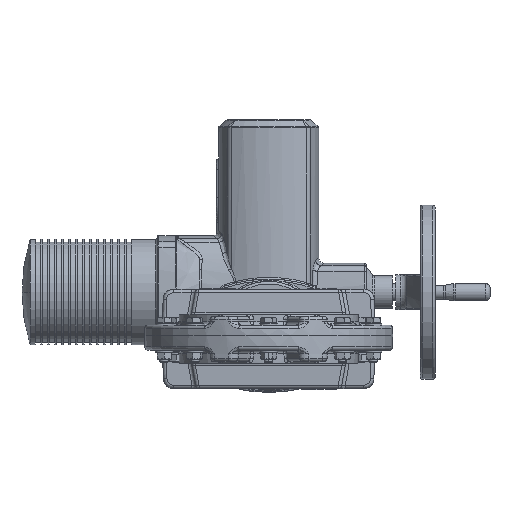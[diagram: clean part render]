
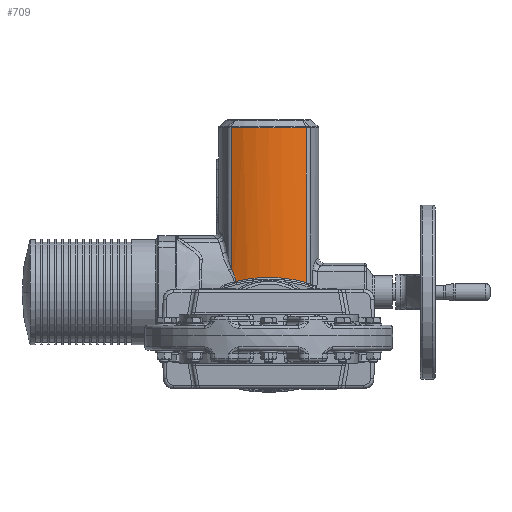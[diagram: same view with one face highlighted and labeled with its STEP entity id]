
A CAD part, front view. The second image highlights one B-rep face of the part: STEP entity #709.
In plain terms, the highlighted cylindrical face has radius 100 mm (diameter 200 mm), a partial arc.
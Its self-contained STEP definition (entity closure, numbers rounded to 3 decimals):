
#709 = ADVANCED_FACE ( 'NONE', ( #124707 ), #47114, .T. ) ;
#2525 = CARTESIAN_POINT ( 'NONE',  ( 6.69, 525.164, 66.645 ) ) ;
#4971 = ORIENTED_EDGE ( 'NONE', *, *, #5374, .T. ) ;
#5374 = EDGE_CURVE ( 'NONE', #31009, #96477, #47219, .T. ) ;
#8836 = AXIS2_PLACEMENT_3D ( 'NONE', #107347, #72303, #60948 ) ;
#9559 = VECTOR ( 'NONE', #24443, 1000. ) ;
#12243 = CARTESIAN_POINT ( 'NONE',  ( -38.812, 532.833, 67.167 ) ) ;
#13857 = CARTESIAN_POINT ( 'NONE',  ( -30.843, 529.814, 63.702 ) ) ;
#14353 = CARTESIAN_POINT ( 'NONE',  ( 15.279, 526.159, 66.008 ) ) ;
#19783 = VECTOR ( 'NONE', #110935, 1000. ) ;
#24078 = CARTESIAN_POINT ( 'NONE',  ( -37.247, 532.196, 62.232 ) ) ;
#24443 = DIRECTION ( 'NONE',  ( 0., 0., -1. ) ) ;
#25709 = CARTESIAN_POINT ( 'NONE',  ( -20.937, 527.156, 65.374 ) ) ;
#26221 = CARTESIAN_POINT ( 'NONE',  ( 19.552, 526.926, 65.52 ) ) ;
#28781 = CARTESIAN_POINT ( 'NONE',  ( -43.041, 534.737, 238.426 ) ) ;
#31009 = VERTEX_POINT ( 'NONE', #66197 ) ;
#34311 = ORIENTED_EDGE ( 'NONE', *, *, #40391, .F. ) ;
#37028 = CARTESIAN_POINT ( 'NONE',  ( -37.247, 532.196, 62.232 ) ) ;
#37524 = CARTESIAN_POINT ( 'NONE',  ( -14.131, 525.988, 66.117 ) ) ;
#38037 = CARTESIAN_POINT ( 'NONE',  ( 22.103, 527.47, 65.176 ) ) ;
#39289 = EDGE_CURVE ( 'NONE', #125797, #59563, #68224, .T. ) ;
#40044 = AXIS2_PLACEMENT_3D ( 'NONE', #57318, #139742, #69160 ) ;
#40391 = EDGE_CURVE ( 'NONE', #125797, #82460, #51053, .T. ) ;
#41399 = EDGE_CURVE ( 'NONE', #96477, #82460, #85123, .T. ) ;
#47114 = CYLINDRICAL_SURFACE ( 'NONE', #8836, 100. ) ;
#47219 = B_SPLINE_CURVE_WITH_KNOTS ( 'NONE', 3,
 ( #82831, #59125, #129694, #12243, #94639, #24078 ),
 .UNSPECIFIED., .F., .F.,
 ( 4, 2, 4 ),
 ( 0., 0.008, 0.016 ),
 .UNSPECIFIED. ) ;
#48322 = CARTESIAN_POINT ( 'NONE',  ( -34.072, 530.921, 63.013 ) ) ;
#49333 = CARTESIAN_POINT ( 'NONE',  ( -10.673, 525.567, 66.386 ) ) ;
#49849 = CARTESIAN_POINT ( 'NONE',  ( 27.143, 528.692, 64.404 ) ) ;
#50710 = CARTESIAN_POINT ( 'NONE',  ( -37.247, 532.196, 62.232 ) ) ;
#51053 = LINE ( 'NONE', #75382, #19783 ) ;
#51912 = LINE ( 'NONE', #107395, #9559 ) ;
#53257 = CARTESIAN_POINT ( 'NONE',  ( 43.041, 534.737, 238.426 ) ) ;
#53669 = CARTESIAN_POINT ( 'NONE',  ( 43.041, 534.737, 60.688 ) ) ;
#57318 = CARTESIAN_POINT ( 'NONE',  ( 0., 625., 238.426 ) ) ;
#59125 = CARTESIAN_POINT ( 'NONE',  ( -41.868, 534.177, 74.227 ) ) ;
#59563 = VERTEX_POINT ( 'NONE', #28781 ) ;
#60948 = DIRECTION ( 'NONE',  ( -1., 0., 0. ) ) ;
#60998 = ORIENTED_EDGE ( 'NONE', *, *, #112499, .T. ) ;
#61251 = CARTESIAN_POINT ( 'NONE',  ( -8.057, 525.321, 66.544 ) ) ;
#61769 = CARTESIAN_POINT ( 'NONE',  ( 36.839, 531.97, 62.368 ) ) ;
#66197 = CARTESIAN_POINT ( 'NONE',  ( -43.041, 534.737, 76.501 ) ) ;
#67739 = ORIENTED_EDGE ( 'NONE', *, *, #41399, .T. ) ;
#68224 = CIRCLE ( 'NONE', #40044, 100. ) ;
#69160 = DIRECTION ( 'NONE',  ( 1., 0., 0. ) ) ;
#72303 = DIRECTION ( 'NONE',  ( 0., 0., -1. ) ) ;
#73104 = CARTESIAN_POINT ( 'NONE',  ( -0.227, 524.94, 66.788 ) ) ;
#73614 = CARTESIAN_POINT ( 'NONE',  ( 43.041, 534.737, 60.688 ) ) ;
#75382 = CARTESIAN_POINT ( 'NONE',  ( 43.041, 534.737, 247.75 ) ) ;
#77626 = ORIENTED_EDGE ( 'NONE', *, *, #39289, .T. ) ;
#82460 = VERTEX_POINT ( 'NONE', #53669 ) ;
#82831 = CARTESIAN_POINT ( 'NONE',  ( -43.041, 534.737, 76.501 ) ) ;
#84996 = CARTESIAN_POINT ( 'NONE',  ( 10.134, 525.455, 66.458 ) ) ;
#85123 = B_SPLINE_CURVE_WITH_KNOTS ( 'NONE', 3,
 ( #37028, #48322, #13857, #96271, #25709, #108145, #37524, #120010, #49333, #131833, #61251, #143698, #73104, #2525, #84996, #14353, #96808, #26221, #108646, #38037, #120521, #49849, #132352, #61769, #144211, #73614 ),
 .UNSPECIFIED., .F., .F.,
 ( 4, 2, 2, 2, 2, 2, 2, 2, 2, 2, 2, 2, 4 ),
 ( 0., 0.01, 0.021, 0.026, 0.029, 0.031, 0.042, 0.052, 0.057, 0.06, 0.062, 0.073, 0.083 ),
 .UNSPECIFIED. ) ;
#94639 = CARTESIAN_POINT ( 'NONE',  ( -37.946, 532.476, 64.739 ) ) ;
#96271 = CARTESIAN_POINT ( 'NONE',  ( -24.276, 527.931, 64.883 ) ) ;
#96477 = VERTEX_POINT ( 'NONE', #50710 ) ;
#96808 = CARTESIAN_POINT ( 'NONE',  ( 16.99, 526.439, 65.83 ) ) ;
#103039 = EDGE_LOOP ( 'NONE', ( #4971, #67739, #34311, #77626, #60998 ) ) ;
#107347 = CARTESIAN_POINT ( 'NONE',  ( 0., 625., 247.75 ) ) ;
#107395 = CARTESIAN_POINT ( 'NONE',  ( -43.041, 534.737, 247.75 ) ) ;
#108145 = CARTESIAN_POINT ( 'NONE',  ( -15.843, 526.248, 65.951 ) ) ;
#108646 = CARTESIAN_POINT ( 'NONE',  ( 20.406, 527.1, 65.41 ) ) ;
#110935 = DIRECTION ( 'NONE',  ( 0., 0., -1. ) ) ;
#112499 = EDGE_CURVE ( 'NONE', #59563, #31009, #51912, .T. ) ;
#120010 = CARTESIAN_POINT ( 'NONE',  ( -11.541, 525.664, 66.324 ) ) ;
#120521 = CARTESIAN_POINT ( 'NONE',  ( 22.947, 527.665, 65.053 ) ) ;
#124707 = FACE_OUTER_BOUND ( 'NONE', #103039, .T. ) ;
#125797 = VERTEX_POINT ( 'NONE', #53257 ) ;
#129694 = CARTESIAN_POINT ( 'NONE',  ( -40.772, 533.683, 71.911 ) ) ;
#131833 = CARTESIAN_POINT ( 'NONE',  ( -8.931, 525.396, 66.496 ) ) ;
#132352 = CARTESIAN_POINT ( 'NONE',  ( 30.423, 529.679, 63.785 ) ) ;
#139742 = DIRECTION ( 'NONE',  ( 0., 0., -1. ) ) ;
#143698 = CARTESIAN_POINT ( 'NONE',  ( -3.699, 525.007, 66.745 ) ) ;
#144211 = CARTESIAN_POINT ( 'NONE',  ( 39.975, 533.275, 61.568 ) ) ;
